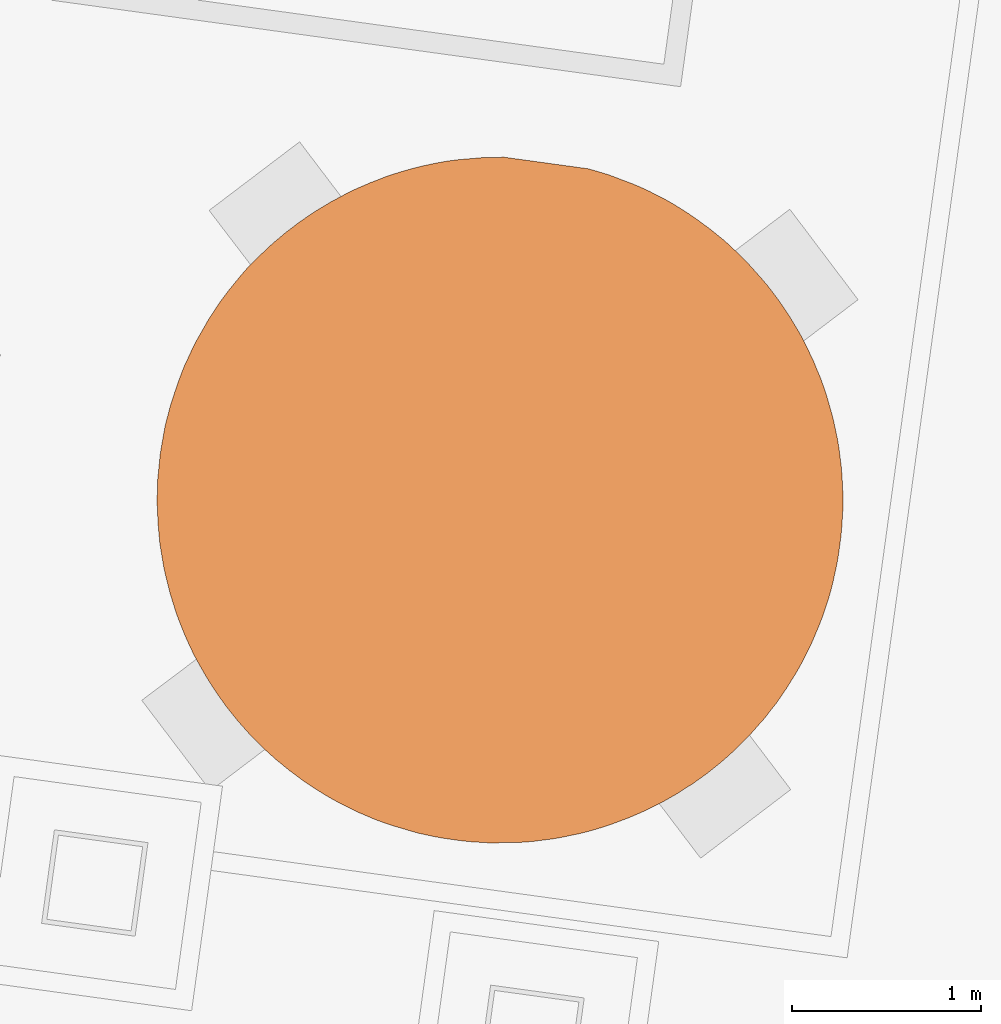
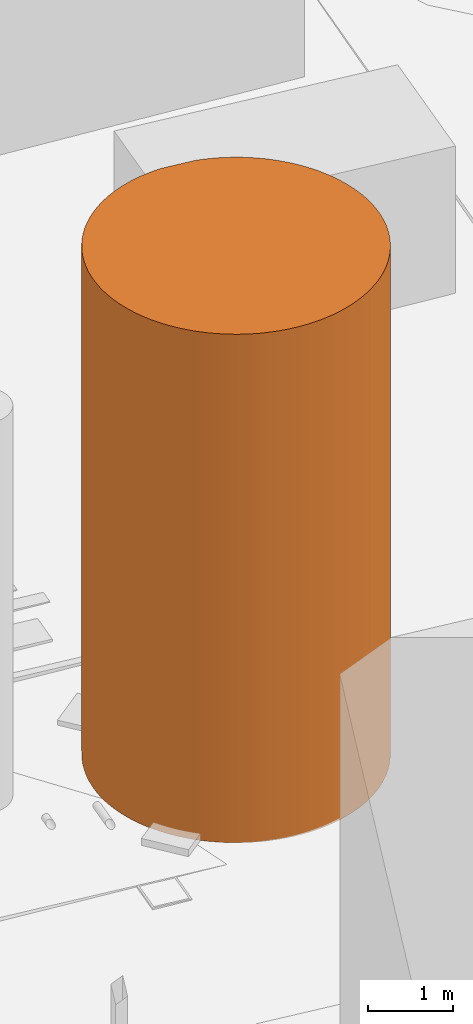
# Not in any storey, part 69 of 75: 1 proxy.
"""IFC4 model written with IfcOpenShell, lengths in metres."""

import ifcopenshell
import ifcopenshell.guid

model = None  # the IFC model being written
_history = None  # IfcOwnerHistory: only IFC2X3 demands one
_inside = {}  # id of a spatial element -> (the spatial element, [elements in it])
_under = {}  # id of a project, library or spatial element -> (it, [spatial elements below it])
_declared = {}  # id of a project -> (the project, [libraries it declares])
_typed = {}  # id of a type object -> (the type object, [elements of that type])
_made_of = {}  # id of a material, layer set ... -> (it, [elements and type objects made of it])


def new_model(schema):
    """Start an empty IFC model of exactly this schema.

    Asked for "IFC4X3", IfcOpenShell would pick the latest addendum, in which some entities
    have other attributes; the version numbers below select the first issue.
    IFC2X3 requires an IfcOwnerHistory on every rooted entity: one is made here for all.
    """
    global model, _history
    if schema == "IFC4X3":
        model = ifcopenshell.file(schema_version=(4, 3, 0, 0))
    else:
        model = ifcopenshell.file(schema=schema)
    _inside.clear()
    _under.clear()
    _declared.clear()
    _typed.clear()
    _made_of.clear()
    _history = None
    if model.schema == "IFC2X3":
        org = make("IfcOrganization", Name="unknown")
        user = make(
            "IfcPersonAndOrganization",
            ThePerson=make("IfcPerson", FamilyName="unknown"),
            TheOrganization=org,
        )
        app = make(
            "IfcApplication",
            ApplicationDeveloper=org,
            Version="unknown",
            ApplicationFullName="unknown",
            ApplicationIdentifier="unknown",
        )
        _history = make(
            "IfcOwnerHistory",
            OwningUser=user,
            OwningApplication=app,
            ChangeAction="ADDED",
            CreationDate=0,
        )
    return model


def make(cls, **values):
    """One entity of the class cls with the attributes given. An attribute that is None is left unset."""
    return model.create_entity(
        cls, **{name: value for name, value in values.items() if value is not None}
    )


def rooted(cls, **values):
    """An entity with a GlobalId (a new one), such as an element, a storey or a relation."""
    return make(cls, GlobalId=ifcopenshell.guid.new(), OwnerHistory=_history, **values)


def si_unit(unit_type, name, prefix=None):
    """IfcSIUnit, for example si_unit("LENGTHUNIT", "METRE", prefix="MILLI")."""
    return make("IfcSIUnit", UnitType=unit_type, Prefix=prefix, Name=name)


def assignment(units):
    """IfcUnitAssignment: the units of a project."""
    return None if units is None else make("IfcUnitAssignment", Units=units)


def point(xyz):
    """IfcCartesianPoint."""
    return None if xyz is None else make("IfcCartesianPoint", Coordinates=xyz)


def direction(xyz):
    """IfcDirection."""
    return None if xyz is None else make("IfcDirection", DirectionRatios=xyz)


def frame(location, z_axis=None, x_axis=None):
    """IfcAxis2Placement3D, a coordinate frame: its origin and axes. An axis left out is left unset."""
    return make(
        "IfcAxis2Placement3D",
        Location=point(location),
        Axis=direction(z_axis),
        RefDirection=direction(x_axis),
    )


def origin_with_axes():
    """The frame at (0, 0, 0) with the z axis (0, 0, 1) and the x axis (1, 0, 0) written out."""
    return frame((0.0, 0.0, 0.0), z_axis=(0.0, 0.0, 1.0), x_axis=(1.0, 0.0, 0.0))


def place(relative_to, where):
    """IfcLocalPlacement: puts the frame where relative to a parent placement (None: the world)."""
    return make(
        "IfcLocalPlacement", PlacementRelTo=relative_to, RelativePlacement=where
    )


def context(
    kind, dimensions, precision=None, world=None, true_north=None, identifier=None
):
    """IfcGeometricRepresentationContext, for example the 3D "Model" context."""
    return make(
        "IfcGeometricRepresentationContext",
        ContextIdentifier=identifier,
        ContextType=kind,
        CoordinateSpaceDimension=dimensions,
        Precision=precision,
        WorldCoordinateSystem=world,
        TrueNorth=true_north,
    )


def subcontext(parent, identifier, kind, view, scale=None):
    """IfcGeometricRepresentationSubContext, for example "Body" below "Model"."""
    return make(
        "IfcGeometricRepresentationSubContext",
        ContextIdentifier=identifier,
        ContextType=kind,
        ParentContext=parent,
        TargetScale=scale,
        TargetView=view,
    )


def project(units=None, contexts=None):
    """IfcProject with its units and contexts."""
    return rooted(
        "IfcProject",
        Name="project",
        RepresentationContexts=contexts,
        UnitsInContext=assignment(units),
    )


def spatial(cls, under=None, at=None, **own):
    """A site, building, storey or space (cls), placed at a placement, below another one or the project."""
    s = rooted(cls, ObjectPlacement=at, **own)
    if under is not None:
        _under.setdefault(under.id(), (under, []))[1].append(s)
    return s


def point_list(points):
    """IfcCartesianPointList2D or 3D."""
    cls = (
        "IfcCartesianPointList2D" if len(points[0]) == 2 else "IfcCartesianPointList3D"
    )
    return make(cls, CoordList=points)


def triangles(points, corners, closed=None, point_numbers=None):
    """IfcTriangulatedFaceSet: each triangle names its three corners, points numbered from 1."""
    return make(
        "IfcTriangulatedFaceSet",
        Coordinates=point_list(points),
        Closed=closed,
        CoordIndex=corners,
        PnIndex=point_numbers,
    )


def shape(context_of_items, identifier, shape_type, items):
    """IfcShapeRepresentation: the items that make up one representation, for example the "Body"."""
    return make(
        "IfcShapeRepresentation",
        ContextOfItems=context_of_items,
        RepresentationIdentifier=identifier,
        RepresentationType=shape_type,
        Items=items,
    )


def made_of(thing, what):
    """Note that an element or type object is made of a material, layer set ...; save() writes the relation."""
    if what is not None:
        _made_of.setdefault(what.id(), (what, []))[1].append(thing)
    return thing


def element(
    cls,
    number,
    at=None,
    inside=None,
    cuts=None,
    type_object=None,
    material=None,
    context=None,
    identifier="Body",
    shape_type=None,
    held_by="IfcProductDefinitionShape",
    body=None,
    shapes=None,
    **own,
):
    """One element of the class cls, such as IfcWall. Its Tag is "e" and its number.

    at: its placement. inside: the storey or other place that contains it. cuts: it is an
    opening in that element (IfcRelVoidsElement). A single representation is given by context,
    identifier, shape_type and body (its items); several are given by shapes. held_by: the class
    of the entity that holds the representations. save() writes the other relations.
    """
    e = rooted(cls, Tag="e%d" % number, ObjectPlacement=at, **own)
    if body is not None:
        shapes = [shape(context, identifier, shape_type, body)]
    if shapes is not None:
        e.Representation = make(held_by, Representations=shapes)
    if inside is not None:
        _inside.setdefault(inside.id(), (inside, []))[1].append(e)
    if cuts is not None:
        rooted(
            "IfcRelVoidsElement", RelatingBuildingElement=cuts, RelatedOpeningElement=e
        )
    if type_object is not None:
        _typed.setdefault(type_object.id(), (type_object, []))[1].append(e)
    return made_of(e, material)


def aggregate(whole, parts):
    """IfcRelAggregates: a whole, such as a stair, and the parts it consists of."""
    return rooted("IfcRelAggregates", RelatingObject=whole, RelatedObjects=parts)


def save(model, path):
    """Write the relations noted so far, then the file.

    IfcRelAggregates (storeys below a building ...), IfcRelContainedInSpatialStructure (elements
    in a storey), IfcRelDefinesByType, IfcRelAssociatesMaterial and IfcRelDeclares: one each for
    every whole, place, type object, material and project.
    """
    for whole, parts in _under.values():
        aggregate(whole, parts)
    for where, things in _inside.values():
        rooted(
            "IfcRelContainedInSpatialStructure",
            RelatedElements=things,
            RelatingStructure=where,
        )
    for kind, things in _typed.values():
        rooted("IfcRelDefinesByType", RelatedObjects=things, RelatingType=kind)
    for what, things in _made_of.values():
        rooted("IfcRelAssociatesMaterial", RelatedObjects=things, RelatingMaterial=what)
    for by, libraries in _declared.values():
        rooted("IfcRelDeclares", RelatingContext=by, RelatedDefinitions=libraries)
    model.write(path)


model = new_model("IFC4")

# Units and contexts
model_context = context("Model", 3, precision=1e-05, world=origin_with_axes(), true_north=direction((0.0, 1.0)))
body_context = subcontext(model_context, "Body", "Model", "MODEL_VIEW")
ifc_project = project(units=[si_unit("AREAUNIT", "SQUARE_METRE"), si_unit("VOLUMEUNIT", "CUBIC_METRE"), si_unit("LENGTHUNIT", "METRE")], contexts=[model_context])

# Site
site_placement = place(None, origin_with_axes())
site = spatial("IfcSite", under=ifc_project, at=site_placement, Name="Parcela industrial Jinhong")

# Proxy
proxy_placement = place(site_placement, origin_with_axes())
element("IfcBuildingElementProxy", 1, at=proxy_placement, inside=site, Name="Adsorbedor MS1201 · volumen de referencia H 7,30 m", ObjectType="Marcador de equipo en planta", PredefinedType="USERDEFINED", context=body_context, shape_type="Tessellation", body=[
    triangles([(55.635616, 57.20469, 1.2), (55.561628, 57.145458, 1.2), (55.597869, 57.176068, 1.2), (55.597869, 57.176068, 8.5), (55.561628, 57.145458, 8.5), (55.635616, 57.20469, 8.5), (55.712617, 57.259948, 1.2), (55.712617, 57.259948, 8.5), (55.673364, 57.233313, 1.2), (55.673364, 57.233313, 8.5), (55.490653, 57.082253, 1.2), (55.490653, 57.082253, 8.5), (55.792631, 57.311233, 1.2), (55.792631, 57.311233, 8.5), (55.751871, 57.286584, 1.2), (55.751871, 57.286584, 8.5), (55.875658, 57.358545, 1.2), (55.833392, 57.335882, 1.2), (55.833392, 57.335882, 8.5), (55.875658, 57.358545, 8.5), (56.600351, 57.568558, 1.2), (56.600351, 57.568558, 8.5), (56.092057, 57.456923, 1.2), (56.092057, 57.456923, 8.5), (56.003484, 57.421052, 1.2), (56.003484, 57.421052, 8.5), (55.917925, 57.381207, 1.2), (55.917925, 57.381207, 8.5), (55.959951, 57.402123, 1.2), (55.959951, 57.402123, 8.5), (56.047017, 57.439981, 1.2), (56.047017, 57.439981, 8.5), (56.181896, 57.489061, 1.2), (56.13535, 57.474106, 1.2), (56.13535, 57.474106, 8.5), (56.181896, 57.489061, 8.5), (56.226455, 57.502511, 1.2), (56.226455, 57.502511, 8.5), (56.551753, 57.564562, 1.2), (56.551753, 57.564562, 8.5), (56.364652, 57.536898, 1.2), (56.364652, 57.536898, 8.5), (56.272761, 57.51572, 1.2), (56.272761, 57.51572, 8.5), (56.318826, 57.527182, 1.2), (56.318826, 57.527182, 8.5), (56.412224, 57.546374, 1.2), (56.412224, 57.546374, 8.5), (56.504901, 57.560326, 1.2), (56.504901, 57.560326, 8.5), (56.457809, 57.554344, 1.2), (56.457809, 57.554344, 8.5), (56.695321, 57.573297, 1.2), (56.647203, 57.572794, 1.2), (56.647203, 57.572794, 8.5), (56.695321, 57.573297, 8.5), (57.21152, 57.509446, 1.2), (56.741692, 57.57404, 1.2), (56.750665, 57.574586, 1.2), (56.750665, 57.574586, 8.5), (56.741692, 57.57404, 8.5), (57.21152, 57.509446, 8.5), (57.203027, 57.512393, 1.2), (57.203027, 57.512393, 8.5), (57.347884, 57.465784, 1.2), (57.257717, 57.495976, 1.2), (57.302168, 57.482746, 1.2), (57.302168, 57.482746, 8.5), (57.257717, 57.495976, 8.5), (57.347884, 57.465784, 8.5), (57.391854, 57.449061, 1.2), (57.391854, 57.449061, 8.5), (55.165928, 56.674883, 1.2), (55.165928, 56.674883, 8.5), (54.919872, 55.674772, 1.2), (54.919872, 55.674772, 8.5), (57.71124, 54.232145, 1.2), (57.71124, 54.232145, 8.5), (58.08704, 56.965533, 1.2), (58.08704, 56.965533, 8.5), (57.807192, 57.221118, 1.2), (57.807192, 57.221118, 8.5), (57.564548, 57.37193, 1.2), (57.564548, 57.37193, 8.5), (57.435825, 57.432338, 1.2), (57.435825, 57.432338, 8.5), (57.479555, 57.413869, 1.2), (57.479555, 57.413869, 8.5), (57.523045, 57.393653, 1.2), (57.523045, 57.393653, 8.5), (57.649061, 57.326499, 1.2), (57.607797, 57.349968, 1.2), (57.607797, 57.349968, 8.5), (57.649061, 57.326499, 8.5), (57.690083, 57.301283, 1.2), (57.690083, 57.301283, 8.5), (57.768396, 57.249586, 1.2), (57.768396, 57.249586, 8.5), (57.72936, 57.276308, 1.2), (57.72936, 57.276308, 8.5), (57.989012, 57.06799, 1.2), (57.989012, 57.06799, 8.5), (57.882798, 57.162674, 1.2), (57.882798, 57.162674, 8.5), (57.845988, 57.192649, 1.2), (57.845988, 57.192649, 8.5), (57.95443, 57.101218, 1.2), (57.919607, 57.132699, 1.2), (57.919607, 57.132699, 8.5), (57.95443, 57.101218, 8.5), (58.056191, 57.000027, 1.2), (58.056191, 57.000027, 8.5), (58.023595, 57.034762, 1.2), (58.023595, 57.034762, 8.5), (58.412172, 56.443903, 1.2), (58.412172, 56.443903, 8.5), (58.374314, 56.530969, 1.2), (58.374314, 56.530969, 8.5), (58.285171, 56.698049, 1.2), (58.285171, 56.698049, 8.5), (58.233886, 56.778063, 1.2), (58.233886, 56.778063, 8.5), (58.178627, 56.855064, 1.2), (58.178627, 56.855064, 8.5), (58.119396, 56.929052, 1.2), (58.119396, 56.929052, 8.5), (58.150005, 56.892811, 1.2), (58.150005, 56.892811, 8.5), (58.20725, 56.817316, 1.2), (58.20725, 56.817316, 8.5), (58.260521, 56.738809, 1.2), (58.260521, 56.738809, 8.5), (58.353638, 56.574742, 1.2), (58.30982, 56.657288, 1.2), (58.30982, 56.657288, 8.5), (58.353638, 56.574742, 8.5), (58.332722, 56.616768, 1.2), (58.332722, 56.616768, 8.5), (58.394989, 56.487196, 1.2), (58.394989, 56.487196, 8.5), (58.446297, 56.35557, 1.2), (58.431101, 56.40037, 1.2), (58.431101, 56.40037, 8.5), (58.446297, 56.35557, 8.5), (58.474702, 56.264465, 1.2), (58.461492, 56.310771, 1.2), (58.461492, 56.310771, 8.5), (58.474702, 56.264465, 8.5), (58.529533, 55.51128, 1.2), (58.529533, 55.51128, 8.5), (58.509089, 56.126269, 1.2), (58.509089, 56.126269, 8.5), (58.487911, 56.21816, 1.2), (58.487911, 56.21816, 8.5), (58.499373, 56.172094, 1.2), (58.499373, 56.172094, 8.5), (58.526534, 56.033111, 1.2), (58.518805, 56.080443, 1.2), (58.518805, 56.080443, 8.5), (58.526534, 56.033111, 8.5), (58.532517, 55.986019, 1.2), (58.532517, 55.986019, 8.5), (58.543744, 55.653472, 1.2), (58.543744, 55.653472, 8.5), (58.544985, 55.843718, 1.2), (58.544985, 55.843718, 8.5), (58.542496, 55.890329, 1.2), (58.542496, 55.890329, 8.5), (58.5385, 55.938927, 1.2), (58.5385, 55.938927, 8.5), (58.547235, 55.79536, 1.2), (58.547235, 55.79536, 8.5), (58.546734, 55.70111, 1.2), (58.546734, 55.70111, 8.5), (58.547978, 55.748988, 1.2), (58.547978, 55.748988, 8.5), (58.540753, 55.605835, 1.2), (58.540753, 55.605835, 8.5), (58.536016, 55.558437, 1.2), (58.536016, 55.558437, 8.5), (57.791494, 54.285177, 1.2), (57.752, 54.256794, 1.2), (57.752, 54.256794, 8.5), (57.791494, 54.285177, 8.5), (57.631466, 54.182607, 1.2), (57.671986, 54.205509, 1.2), (57.671986, 54.205509, 8.5), (57.631466, 54.182607, 8.5), (57.546933, 54.137282, 1.2), (57.588959, 54.158198, 1.2), (57.588959, 54.158198, 8.5), (57.546933, 54.137282, 8.5), (57.461373, 54.097437, 1.2), (57.504906, 54.116366, 1.2), (57.504906, 54.116366, 8.5), (57.461373, 54.097437, 8.5), (57.372801, 54.061566, 1.2), (57.41784, 54.078508, 1.2), (57.41784, 54.078508, 8.5), (57.372801, 54.061566, 8.5), (56.769537, 53.945192, 1.2), (56.769537, 53.945192, 8.5), (57.098459, 53.981831, 1.2), (57.098459, 53.981831, 8.5), (57.238403, 54.015978, 1.2), (57.238403, 54.015978, 8.5), (57.327761, 54.044624, 1.2), (57.327761, 54.044624, 8.5), (57.282962, 54.029428, 1.2), (57.282962, 54.029428, 8.5), (57.192097, 54.002769, 1.2), (57.192097, 54.002769, 8.5), (57.146031, 53.991307, 1.2), (57.146031, 53.991307, 8.5), (57.005302, 53.964386, 1.2), (57.052634, 53.972115, 1.2), (57.052634, 53.972115, 8.5), (57.005302, 53.964386, 8.5), (56.95821, 53.958403, 1.2), (56.95821, 53.958403, 8.5), (56.815908, 53.945935, 1.2), (56.911118, 53.95242, 1.2), (56.911118, 53.95242, 8.5), (56.815908, 53.945935, 8.5), (56.864267, 53.948184, 1.2), (56.864267, 53.948184, 8.5), (56.20714, 54.022513, 1.2), (56.20714, 54.022513, 8.5), (56.721419, 53.944689, 1.2), (56.721419, 53.944689, 8.5), (56.485217, 53.961147, 1.2), (56.485217, 53.961147, 8.5), (56.62741, 53.946936, 1.2), (56.62741, 53.946936, 8.5), (56.673301, 53.944186, 1.2), (56.673301, 53.944186, 8.5), (56.579772, 53.949927, 1.2), (56.579772, 53.949927, 8.5), (56.532375, 53.954664, 1.2), (56.532375, 53.954664, 8.5), (56.251591, 54.009284, 1.2), (56.251591, 54.009284, 8.5), (56.344465, 53.985837, 1.2), (56.344465, 53.985837, 8.5), (56.391142, 53.975861, 1.2), (56.391142, 53.975861, 8.5), (56.43806, 53.967631, 1.2), (56.43806, 53.967631, 8.5), (56.297788, 53.995814, 1.2), (56.297788, 53.995814, 8.5), (56.116733, 54.050959, 1.2), (56.160943, 54.035983, 1.2), (56.160943, 54.035983, 8.5), (56.116733, 54.050959, 8.5), (56.027286, 54.086391, 1.2), (56.027286, 54.086391, 8.5), (56.071016, 54.067922, 1.2), (56.071016, 54.067922, 8.5), (55.941813, 54.124836, 1.2), (55.983556, 54.104861, 1.2), (55.983556, 54.104861, 8.5), (55.941813, 54.124836, 8.5), (55.898563, 54.146799, 1.2), (55.898563, 54.146799, 8.5), (55.657665, 54.297372, 1.2), (55.657665, 54.297372, 8.5), (55.774774, 54.217206, 1.2), (55.774774, 54.217206, 8.5), (55.815797, 54.19199, 1.2), (55.815797, 54.19199, 8.5), (55.85706, 54.168521, 1.2), (55.85706, 54.168521, 8.5), (55.735498, 54.242181, 1.2), (55.735498, 54.242181, 8.5), (55.694715, 54.269143, 1.2), (55.694715, 54.269143, 8.5), (55.58206, 54.355815, 1.2), (55.618869, 54.32584, 1.2), (55.618869, 54.32584, 8.5), (55.58206, 54.355815, 8.5), (55.510428, 54.417272, 1.2), (55.54525, 54.38579, 1.2), (55.54525, 54.38579, 8.5), (55.510428, 54.417272, 8.5), (55.441263, 54.483727, 1.2), (55.441263, 54.483727, 8.5), (55.475605, 54.448753, 1.2), (55.475605, 54.448753, 8.5), (55.376071, 54.553196, 1.2), (55.408427, 54.516715, 1.2), (55.408427, 54.516715, 8.5), (55.376071, 54.553196, 8.5), (55.314853, 54.625678, 1.2), (55.345222, 54.587691, 1.2), (55.345222, 54.587691, 8.5), (55.314853, 54.625678, 8.5), (55.257608, 54.701173, 1.2), (55.28599, 54.661679, 1.2), (55.28599, 54.661679, 8.5), (55.257608, 54.701173, 8.5), (55.204336, 54.77968, 1.2), (55.204336, 54.77968, 8.5), (55.230732, 54.73868, 1.2), (55.230732, 54.73868, 8.5), (55.003365, 55.207718, 1.2), (55.003365, 55.207718, 8.5), (55.155038, 54.861201, 1.2), (55.155038, 54.861201, 8.5), (55.179447, 54.818694, 1.2), (55.179447, 54.818694, 8.5), (55.050939, 55.074827, 1.2), (55.050939, 55.074827, 8.5), (55.088797, 54.987761, 1.2), (55.088797, 54.987761, 8.5), (55.132135, 54.901721, 1.2), (55.132135, 54.901721, 8.5), (55.109473, 54.943988, 1.2), (55.109473, 54.943988, 8.5), (55.069628, 55.029547, 1.2), (55.069628, 55.029547, 8.5), (55.033757, 55.118119, 1.2), (55.033757, 55.118119, 8.5), (55.016814, 55.163159, 1.2), (55.016814, 55.163159, 8.5), (54.976707, 55.298583, 1.2), (54.988409, 55.254264, 1.2), (54.988409, 55.254264, 8.5), (54.976707, 55.298583, 8.5), (54.965244, 55.344649, 1.2), (54.965244, 55.344649, 8.5), (54.946052, 55.438046, 1.2), (54.946052, 55.438046, 8.5), (54.954022, 55.392461, 1.2), (54.954022, 55.392461, 8.5), (54.938323, 55.485378, 1.2), (54.938323, 55.485378, 8.5), (54.926358, 55.579562, 1.2), (54.930594, 55.53271, 1.2), (54.930594, 55.53271, 8.5), (54.926358, 55.579562, 8.5), (54.922122, 55.626413, 1.2), (54.922122, 55.626413, 8.5), (54.91688, 55.769501, 1.2), (54.917383, 55.721383, 1.2), (54.917383, 55.721383, 8.5), (54.91688, 55.769501, 8.5), (54.918124, 55.817379, 1.2), (54.918124, 55.817379, 8.5), (54.923864, 55.910908, 1.2), (54.923864, 55.910908, 8.5), (54.919367, 55.865257, 1.2), (54.919367, 55.865257, 8.5), (54.928601, 55.958306, 1.2), (54.928601, 55.958306, 8.5), (54.941568, 56.05262, 1.2), (54.941568, 56.05262, 8.5), (54.933338, 56.005703, 1.2), (54.933338, 56.005703, 8.5), (55.00992, 56.329737, 1.2), (55.00992, 56.329737, 8.5), (54.949798, 56.099538, 1.2), (54.949798, 56.099538, 8.5), (54.969751, 56.192892, 1.2), (54.969751, 56.192892, 8.5), (54.958028, 56.146455, 1.2), (54.958028, 56.146455, 8.5), (54.994704, 56.28378, 1.2), (54.981474, 56.239329, 1.2), (54.981474, 56.239329, 8.5), (54.994704, 56.28378, 8.5), (55.142459, 56.63362, 1.2), (55.142459, 56.63362, 8.5), (55.078798, 56.507124, 1.2), (55.078798, 56.507124, 8.5), (55.024896, 56.373947, 1.2), (55.024896, 56.373947, 8.5), (55.041859, 56.419664, 1.2), (55.041859, 56.419664, 8.5), (55.058582, 56.463634, 1.2), (55.058582, 56.463634, 8.5), (55.099014, 56.550614, 1.2), (55.099014, 56.550614, 8.5), (55.11899, 56.592357, 1.2), (55.11899, 56.592357, 8.5), (55.216359, 56.756929, 1.2), (55.189397, 56.716146, 1.2), (55.189397, 56.716146, 8.5), (55.216359, 56.756929, 8.5), (55.269803, 56.835001, 1.2), (55.241334, 56.796205, 1.2), (55.241334, 56.796205, 8.5), (55.269803, 56.835001, 8.5), (55.298031, 56.872051, 1.2), (55.298031, 56.872051, 8.5), (55.328006, 56.90886, 1.2), (55.328006, 56.90886, 8.5), (55.42293, 57.016822, 1.2), (55.357981, 56.94567, 1.2), (55.357981, 56.94567, 8.5), (55.42293, 57.016822, 8.5), (55.389702, 56.982239, 1.2), (55.389702, 56.982239, 8.5), (55.455918, 57.049658, 1.2), (55.455918, 57.049658, 8.5), (55.525387, 57.114849, 1.2), (55.525387, 57.114849, 8.5), (57.866989, 54.342422, 1.2), (57.866989, 54.342422, 8.5), (57.93947, 54.40364, 1.2), (57.93947, 54.40364, 8.5), (58.10513, 54.57306, 1.2), (58.10513, 54.57306, 8.5), (58.16508, 54.646678, 1.2), (58.16508, 54.646678, 8.5), (58.273714, 54.802583, 1.2), (58.273714, 54.802583, 8.5), (58.344121, 54.926372, 1.2), (58.344121, 54.926372, 8.5), (58.404529, 55.055096, 1.2), (58.404529, 55.055096, 8.5), (58.505083, 55.372274, 1.2), (58.505083, 55.372274, 8.5), (58.523049, 55.464122, 1.2), (58.523049, 55.464122, 8.5), (58.514819, 55.417205, 1.2), (58.514819, 55.417205, 8.5), (58.454937, 55.188753, 1.2), (58.495106, 55.325597, 1.2), (58.495106, 55.325597, 8.5), (58.454937, 55.188753, 8.5), (58.483383, 55.27916, 1.2), (58.483383, 55.27916, 8.5), (58.469913, 55.232963, 1.2), (58.469913, 55.232963, 8.5), (58.422998, 55.098826, 1.2), (58.439721, 55.142796, 1.2), (58.439721, 55.142796, 8.5), (58.422998, 55.098826, 8.5), (58.386059, 55.011366, 1.2), (58.386059, 55.011366, 8.5), (58.365844, 54.967876, 1.2), (58.365844, 54.967876, 8.5), (58.322159, 54.883123, 1.2), (58.322159, 54.883123, 8.5), (58.29869, 54.84186, 1.2), (58.29869, 54.84186, 8.5), (58.221777, 54.722524, 1.2), (58.248499, 54.76156, 1.2), (58.248499, 54.76156, 8.5), (58.221777, 54.722524, 8.5), (58.195055, 54.683488, 1.2), (58.195055, 54.683488, 8.5), (58.136611, 54.607882, 1.2), (58.136611, 54.607882, 8.5), (58.008939, 54.468832, 1.2), (58.073409, 54.53649, 1.2), (58.073409, 54.53649, 8.5), (58.008939, 54.468832, 8.5), (58.041927, 54.501668, 1.2), (58.041927, 54.501668, 8.5), (57.973965, 54.434489, 1.2), (57.973965, 54.434489, 8.5), (57.902989, 54.371284, 1.2), (57.902989, 54.371284, 8.5), (57.829001, 54.312053, 1.2), (57.829001, 54.312053, 8.5)], [[1, 2, 3], [5, 6, 4], [7, 2, 1], [6, 5, 8], [7, 1, 9], [6, 8, 10], [2, 7, 11], [5, 12, 8], [13, 11, 7], [12, 14, 8], [13, 7, 15], [8, 14, 16], [18, 17, 13], [19, 14, 20], [17, 21, 13], [20, 14, 22], [21, 17, 23], [20, 22, 24], [23, 17, 25], [20, 24, 26], [25, 17, 27], [20, 26, 28], [29, 25, 27], [30, 28, 26], [23, 25, 31], [26, 24, 32], [34, 33, 23], [35, 24, 36], [33, 37, 23], [36, 24, 38], [37, 39, 23], [38, 24, 40], [39, 37, 41], [38, 40, 42], [41, 37, 43], [38, 42, 44], [45, 41, 43], [46, 44, 42], [47, 39, 41], [48, 42, 40], [49, 39, 47], [50, 48, 40], [49, 47, 51], [48, 50, 52], [21, 23, 39], [24, 22, 40], [21, 54, 53], [56, 55, 22], [58, 59, 57], [62, 60, 61], [59, 63, 57], [62, 64, 60], [65, 66, 67], [69, 70, 68], [71, 66, 65], [70, 69, 72], [71, 53, 66], [56, 72, 69], [21, 53, 71], [72, 56, 22], [73, 21, 71], [72, 22, 74], [73, 71, 75], [72, 74, 76], [75, 71, 77], [72, 76, 78], [71, 79, 77], [80, 72, 78], [79, 71, 81], [72, 80, 82], [81, 71, 83], [72, 82, 84], [83, 71, 85], [72, 84, 86], [87, 83, 85], [88, 86, 84], [89, 83, 87], [90, 88, 84], [92, 91, 83], [93, 84, 94], [91, 95, 83], [94, 84, 96], [81, 83, 95], [84, 82, 96], [97, 81, 95], [98, 96, 82], [97, 95, 99], [96, 98, 100], [101, 79, 81], [102, 82, 80], [101, 81, 103], [82, 102, 104], [103, 81, 105], [82, 104, 106], [108, 107, 103], [109, 104, 110], [101, 103, 107], [104, 102, 110], [111, 79, 101], [112, 102, 80], [111, 101, 113], [102, 112, 114], [115, 77, 79], [78, 116, 80], [115, 79, 117], [80, 116, 118], [117, 79, 119], [80, 118, 120], [119, 79, 121], [80, 120, 122], [121, 79, 123], [80, 122, 124], [123, 79, 125], [80, 124, 126], [127, 123, 125], [128, 126, 124], [129, 121, 123], [130, 124, 122], [119, 121, 131], [122, 120, 132], [134, 133, 119], [135, 120, 136], [137, 133, 134], [135, 136, 138], [117, 119, 133], [120, 118, 136], [139, 115, 117], [140, 118, 116], [142, 141, 115], [143, 116, 144], [146, 145, 141], [147, 144, 148], [145, 115, 141], [116, 148, 144], [145, 149, 115], [148, 116, 150], [149, 145, 151], [148, 150, 152], [151, 145, 153], [148, 152, 154], [155, 151, 153], [156, 154, 152], [158, 157, 151], [159, 152, 160], [157, 161, 151], [160, 152, 162], [149, 151, 161], [152, 150, 162], [163, 149, 161], [164, 162, 150], [163, 161, 165], [162, 164, 166], [165, 161, 167], [162, 166, 168], [167, 161, 169], [162, 168, 170], [171, 163, 165], [172, 166, 164], [173, 163, 171], [174, 172, 164], [173, 171, 175], [172, 174, 176], [149, 163, 177], [164, 150, 178], [179, 149, 177], [180, 178, 150], [77, 181, 182], [183, 184, 78], [186, 185, 77], [187, 78, 188], [190, 189, 185], [191, 188, 192], [194, 193, 189], [195, 192, 196], [198, 197, 193], [199, 196, 200], [197, 77, 193], [78, 200, 196], [197, 201, 77], [200, 78, 202], [201, 197, 203], [200, 202, 204], [203, 197, 205], [200, 204, 206], [205, 197, 207], [200, 206, 208], [209, 205, 207], [210, 208, 206], [211, 203, 205], [212, 206, 204], [213, 203, 211], [214, 212, 204], [216, 215, 203], [217, 204, 218], [215, 219, 203], [218, 204, 220], [222, 221, 219], [223, 220, 224], [225, 221, 222], [223, 224, 226], [201, 219, 221], [220, 202, 224], [219, 201, 203], [220, 204, 202], [201, 227, 77], [202, 78, 228], [227, 201, 229], [202, 228, 230], [231, 227, 229], [232, 230, 228], [231, 229, 233], [230, 232, 234], [233, 229, 235], [230, 234, 236], [237, 231, 233], [238, 234, 232], [239, 231, 237], [240, 238, 232], [241, 227, 231], [242, 232, 228], [241, 231, 243], [232, 242, 244], [243, 231, 245], [232, 244, 246], [245, 231, 247], [232, 246, 248], [241, 243, 249], [244, 242, 250], [252, 251, 227], [253, 228, 254], [251, 255, 227], [254, 228, 256], [255, 251, 257], [254, 256, 258], [260, 259, 255], [261, 256, 262], [259, 263, 255], [262, 256, 264], [263, 227, 255], [228, 264, 256], [263, 265, 227], [264, 228, 266], [265, 263, 267], [264, 266, 268], [267, 263, 269], [264, 268, 270], [269, 263, 271], [264, 270, 272], [273, 265, 267], [274, 268, 266], [275, 265, 273], [276, 274, 266], [278, 277, 265], [279, 266, 280], [282, 281, 277], [283, 280, 284], [281, 285, 277], [284, 280, 286], [285, 281, 287], [284, 286, 288], [290, 289, 285], [291, 286, 292], [294, 293, 289], [295, 292, 296], [298, 297, 293], [299, 296, 300], [297, 301, 293], [300, 296, 302], [301, 297, 303], [300, 302, 304], [301, 289, 293], [292, 302, 296], [301, 265, 289], [266, 302, 292], [301, 305, 265], [302, 266, 306], [305, 301, 307], [302, 306, 308], [307, 301, 309], [302, 308, 310], [311, 305, 307], [312, 308, 306], [311, 307, 313], [308, 312, 314], [313, 307, 315], [308, 314, 316], [317, 313, 315], [318, 316, 314], [319, 311, 313], [320, 314, 312], [321, 305, 311], [322, 312, 306], [323, 305, 321], [324, 322, 306], [326, 325, 305], [327, 306, 328], [325, 329, 305], [328, 306, 330], [329, 331, 305], [330, 306, 332], [331, 329, 333], [330, 332, 334], [331, 335, 305], [332, 306, 336], [338, 337, 335], [339, 336, 340], [75, 337, 341], [340, 76, 342], [344, 343, 75], [345, 76, 346], [343, 347, 75], [346, 76, 348], [347, 349, 75], [348, 76, 350], [349, 347, 351], [348, 350, 352], [349, 353, 75], [350, 76, 354], [353, 355, 75], [354, 76, 356], [355, 353, 357], [354, 356, 358], [355, 359, 75], [356, 76, 360], [359, 355, 361], [356, 360, 362], [363, 359, 361], [364, 362, 360], [363, 361, 365], [362, 364, 366], [368, 367, 363], [369, 364, 370], [359, 363, 367], [364, 360, 370], [73, 75, 359], [76, 74, 360], [371, 73, 359], [372, 360, 74], [371, 359, 373], [360, 372, 374], [373, 359, 375], [360, 374, 376], [377, 373, 375], [378, 376, 374], [379, 373, 377], [380, 378, 374], [371, 373, 381], [374, 372, 382], [383, 371, 381], [384, 382, 372], [386, 385, 73], [387, 74, 388], [390, 389, 385], [391, 388, 392], [389, 393, 385], [392, 388, 394], [393, 395, 385], [394, 388, 396], [398, 397, 395], [399, 396, 400], [401, 397, 398], [399, 400, 402], [397, 403, 395], [400, 396, 404], [11, 395, 403], [396, 12, 404], [2, 11, 405], [12, 5, 406], [395, 11, 73], [396, 74, 12], [11, 13, 73], [12, 74, 14], [73, 13, 21], [74, 22, 14], [385, 395, 73], [388, 74, 396], [337, 75, 335], [340, 336, 76], [335, 75, 305], [336, 306, 76], [265, 305, 75], [306, 266, 76], [265, 75, 77], [266, 78, 76], [227, 265, 77], [228, 78, 266], [277, 289, 265], [280, 266, 292], [285, 289, 277], [286, 280, 292], [189, 193, 77], [192, 78, 196], [185, 189, 77], [188, 78, 192], [77, 407, 181], [408, 78, 184], [77, 409, 407], [410, 78, 408], [77, 411, 409], [412, 78, 410], [77, 413, 411], [414, 78, 412], [413, 77, 115], [78, 414, 116], [149, 413, 115], [150, 116, 414], [413, 149, 415], [150, 414, 416], [415, 149, 417], [150, 416, 418], [417, 149, 419], [150, 418, 420], [419, 149, 421], [150, 420, 422], [421, 149, 423], [150, 422, 424], [425, 421, 423], [426, 424, 422], [428, 427, 421], [429, 422, 430], [431, 427, 428], [429, 430, 432], [433, 427, 431], [434, 432, 430], [436, 435, 427], [437, 430, 438], [419, 427, 435], [430, 420, 438], [427, 419, 421], [430, 422, 420], [439, 417, 419], [440, 420, 418], [441, 417, 439], [442, 440, 418], [415, 417, 443], [418, 416, 444], [445, 415, 443], [446, 444, 416], [448, 447, 415], [449, 416, 450], [413, 447, 451], [450, 414, 452], [411, 413, 453], [414, 412, 454], [456, 455, 411], [457, 412, 458], [459, 455, 456], [457, 458, 460], [409, 411, 455], [412, 410, 458], [461, 409, 455], [462, 458, 410], [447, 413, 415], [450, 416, 414], [463, 407, 409], [464, 410, 408], [465, 181, 407], [466, 408, 184], [57, 66, 53], [62, 56, 69], [57, 53, 58], [61, 56, 62], [61, 59, 58], [61, 60, 59], [56, 58, 53], [56, 61, 58], [53, 54, 55], [53, 55, 56], [22, 54, 21], [22, 55, 54], [21, 39, 40], [40, 22, 21], [39, 49, 50], [50, 40, 39], [49, 51, 52], [52, 50, 49], [48, 51, 47], [48, 52, 51], [42, 47, 41], [42, 48, 47], [41, 45, 46], [46, 42, 41], [44, 45, 43], [44, 46, 45], [38, 43, 37], [38, 44, 43], [36, 37, 33], [36, 38, 37], [33, 34, 35], [33, 35, 36], [24, 34, 23], [24, 35, 34], [23, 31, 32], [32, 24, 23], [26, 31, 25], [26, 32, 31], [25, 29, 30], [30, 26, 25], [28, 29, 27], [28, 30, 29], [20, 27, 17], [20, 28, 27], [17, 18, 19], [17, 19, 20], [14, 18, 13], [14, 19, 18], [13, 15, 16], [16, 14, 13], [8, 15, 7], [8, 16, 15], [7, 9, 10], [10, 8, 7], [6, 9, 1], [6, 10, 9], [1, 3, 4], [1, 4, 6], [5, 3, 2], [5, 4, 3], [2, 405, 406], [406, 5, 2], [12, 405, 11], [12, 406, 405], [11, 403, 404], [404, 12, 11], [400, 403, 397], [400, 404, 403], [402, 397, 401], [397, 402, 400], [401, 398, 399], [401, 399, 402], [398, 395, 396], [398, 396, 399], [395, 393, 394], [395, 394, 396], [393, 389, 392], [393, 392, 394], [391, 389, 390], [391, 392, 389], [390, 385, 388], [390, 388, 391], [387, 385, 386], [387, 388, 385], [386, 73, 74], [386, 74, 387], [372, 73, 371], [73, 372, 74], [384, 371, 383], [371, 384, 372], [383, 381, 382], [383, 382, 384], [381, 373, 374], [381, 374, 382], [380, 373, 379], [373, 380, 374], [379, 377, 378], [379, 378, 380], [377, 375, 376], [377, 376, 378], [375, 359, 360], [375, 360, 376], [370, 359, 367], [359, 370, 360], [369, 367, 368], [369, 370, 367], [368, 363, 364], [368, 364, 369], [366, 363, 365], [363, 366, 364], [365, 361, 362], [365, 362, 366], [361, 355, 356], [361, 356, 362], [358, 355, 357], [355, 358, 356], [357, 353, 354], [357, 354, 358], [353, 349, 350], [353, 350, 354], [352, 349, 351], [349, 352, 350], [351, 347, 348], [351, 348, 352], [347, 343, 346], [347, 346, 348], [345, 343, 344], [345, 346, 343], [344, 75, 76], [344, 76, 345], [342, 75, 341], [75, 342, 76], [341, 337, 340], [341, 340, 342], [339, 337, 338], [339, 340, 337], [338, 335, 336], [338, 336, 339], [335, 331, 332], [335, 332, 336], [334, 331, 333], [331, 334, 332], [333, 329, 330], [333, 330, 334], [329, 325, 328], [329, 328, 330], [327, 325, 326], [327, 328, 325], [326, 305, 306], [326, 306, 327], [324, 305, 323], [305, 324, 306], [323, 321, 322], [323, 322, 324], [321, 311, 312], [321, 312, 322], [320, 311, 319], [311, 320, 312], [319, 313, 314], [319, 314, 320], [318, 313, 317], [313, 318, 314], [317, 315, 316], [317, 316, 318], [315, 307, 308], [315, 308, 316], [310, 307, 309], [307, 310, 308], [309, 301, 302], [309, 302, 310], [304, 301, 303], [301, 304, 302], [303, 297, 300], [303, 300, 304], [299, 297, 298], [299, 300, 297], [298, 293, 296], [298, 296, 299], [295, 293, 294], [295, 296, 293], [294, 289, 292], [294, 292, 295], [291, 289, 290], [291, 292, 289], [290, 285, 286], [290, 286, 291], [288, 285, 287], [285, 288, 286], [284, 287, 281], [284, 288, 287], [281, 282, 283], [281, 283, 284], [280, 282, 277], [280, 283, 282], [277, 278, 279], [277, 279, 280], [266, 278, 265], [266, 279, 278], [265, 275, 276], [276, 266, 265], [274, 275, 273], [274, 276, 275], [268, 273, 267], [268, 274, 273], [267, 269, 270], [270, 268, 267], [269, 271, 272], [272, 270, 269], [264, 271, 263], [264, 272, 271], [262, 263, 259], [262, 264, 263], [259, 260, 261], [259, 261, 262], [256, 260, 255], [256, 261, 260], [255, 257, 258], [258, 256, 255], [254, 257, 251], [254, 258, 257], [251, 252, 253], [251, 253, 254], [228, 252, 227], [228, 253, 252], [227, 241, 242], [242, 228, 227], [241, 249, 250], [250, 242, 241], [244, 249, 243], [244, 250, 249], [243, 245, 246], [246, 244, 243], [245, 247, 248], [248, 246, 245], [232, 247, 231], [232, 248, 247], [231, 239, 240], [240, 232, 231], [238, 239, 237], [238, 240, 239], [234, 237, 233], [234, 238, 237], [233, 235, 236], [236, 234, 233], [230, 235, 229], [230, 236, 235], [202, 229, 201], [202, 230, 229], [201, 221, 224], [224, 202, 201], [221, 225, 226], [226, 224, 221], [223, 225, 222], [223, 226, 225], [220, 222, 219], [220, 223, 222], [218, 219, 215], [218, 220, 219], [215, 216, 217], [215, 217, 218], [204, 216, 203], [204, 217, 216], [203, 213, 214], [214, 204, 203], [212, 213, 211], [212, 214, 213], [206, 211, 205], [206, 212, 211], [205, 209, 210], [210, 206, 205], [208, 209, 207], [208, 210, 209], [200, 207, 197], [200, 208, 207], [197, 198, 199], [197, 199, 200], [196, 198, 193], [196, 199, 198], [193, 194, 195], [193, 195, 196], [192, 194, 189], [192, 195, 194], [189, 190, 191], [189, 191, 192], [188, 190, 185], [188, 191, 190], [185, 186, 187], [185, 187, 188], [78, 186, 77], [78, 187, 186], [77, 182, 183], [183, 78, 77], [184, 182, 181], [184, 183, 182], [181, 465, 466], [466, 184, 181], [408, 465, 407], [408, 466, 465], [407, 463, 464], [464, 408, 407], [410, 463, 409], [410, 464, 463], [409, 461, 462], [462, 410, 409], [458, 461, 455], [458, 462, 461], [455, 459, 460], [460, 458, 455], [459, 456, 457], [459, 457, 460], [456, 411, 412], [456, 412, 457], [454, 411, 453], [411, 454, 412], [453, 413, 414], [453, 414, 454], [452, 413, 451], [413, 452, 414], [451, 447, 450], [451, 450, 452], [449, 447, 448], [449, 450, 447], [448, 415, 416], [448, 416, 449], [446, 415, 445], [415, 446, 416], [445, 443, 444], [445, 444, 446], [443, 417, 418], [443, 418, 444], [442, 417, 441], [417, 442, 418], [441, 439, 440], [441, 440, 442], [439, 419, 420], [439, 420, 440], [438, 419, 435], [419, 438, 420], [437, 435, 436], [437, 438, 435], [436, 427, 430], [436, 430, 437], [434, 427, 433], [427, 434, 430], [433, 431, 432], [433, 432, 434], [431, 428, 429], [431, 429, 432], [428, 421, 422], [428, 422, 429], [426, 421, 425], [421, 426, 422], [425, 423, 424], [425, 424, 426], [423, 149, 150], [423, 150, 424], [180, 149, 179], [149, 180, 150], [179, 177, 178], [179, 178, 180], [177, 163, 164], [177, 164, 178], [174, 163, 173], [163, 174, 164], [176, 173, 175], [173, 176, 174], [175, 171, 172], [175, 172, 176], [171, 165, 166], [171, 166, 172], [168, 165, 167], [165, 168, 166], [170, 167, 169], [167, 170, 168], [169, 161, 162], [169, 162, 170], [161, 157, 160], [161, 160, 162], [159, 157, 158], [159, 160, 157], [158, 151, 152], [158, 152, 159], [156, 151, 155], [151, 156, 152], [155, 153, 154], [155, 154, 156], [153, 145, 148], [153, 148, 154], [147, 145, 146], [147, 148, 145], [146, 141, 144], [146, 144, 147], [143, 141, 142], [143, 144, 141], [142, 115, 116], [142, 116, 143], [140, 115, 139], [115, 140, 116], [139, 117, 118], [139, 118, 140], [136, 117, 133], [117, 136, 118], [138, 133, 137], [133, 138, 136], [137, 134, 135], [137, 135, 138], [134, 119, 120], [134, 120, 135], [132, 119, 131], [119, 132, 120], [131, 121, 122], [131, 122, 132], [130, 121, 129], [121, 130, 122], [129, 123, 124], [129, 124, 130], [128, 123, 127], [123, 128, 124], [127, 125, 126], [127, 126, 128], [125, 79, 80], [125, 80, 126], [112, 79, 111], [79, 112, 80], [114, 111, 113], [111, 114, 112], [102, 113, 101], [102, 114, 113], [101, 107, 110], [110, 102, 101], [107, 108, 109], [107, 109, 110], [104, 108, 103], [104, 109, 108], [103, 105, 106], [106, 104, 103], [82, 105, 81], [82, 106, 105], [81, 97, 98], [98, 82, 81], [97, 99, 100], [100, 98, 97], [96, 99, 95], [96, 100, 99], [94, 95, 91], [94, 96, 95], [91, 92, 93], [91, 93, 94], [84, 92, 83], [84, 93, 92], [83, 89, 90], [90, 84, 83], [88, 89, 87], [88, 90, 89], [86, 87, 85], [86, 88, 87], [72, 85, 71], [72, 86, 85], [70, 71, 65], [70, 72, 71], [65, 67, 68], [65, 68, 70], [69, 67, 66], [69, 68, 67], [62, 66, 57], [62, 69, 66], [57, 63, 64], [64, 62, 57], [60, 63, 59], [64, 63, 60]], closed=True),
])

save(model, "model.ifc")
